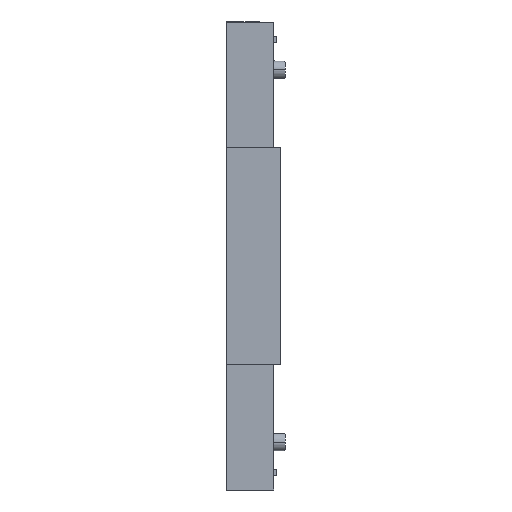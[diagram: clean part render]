
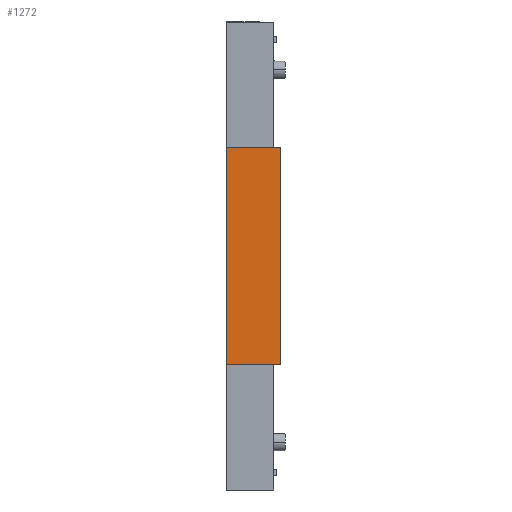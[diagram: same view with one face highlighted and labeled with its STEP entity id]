
A CAD part, front view. The second image highlights one B-rep face of the part: STEP entity #1272.
In plain terms, the highlighted planar face has unit normal (0, -1, 0).
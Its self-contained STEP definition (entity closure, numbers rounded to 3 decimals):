
#30 = FACE_OUTER_BOUND ( 'NONE', #1494, .T. ) ;
#44 = VECTOR ( 'NONE', #546, 1000. ) ;
#58 = LINE ( 'NONE', #514, #44 ) ;
#93 = EDGE_CURVE ( 'NONE', #783, #802, #743, .T. ) ;
#109 = EDGE_CURVE ( 'NONE', #802, #806, #763, .T. ) ;
#236 = EDGE_CURVE ( 'NONE', #783, #845, #601, .T. ) ;
#257 = AXIS2_PLACEMENT_3D ( 'NONE', #408, #407, #428 ) ;
#360 = EDGE_CURVE ( 'NONE', #845, #806, #58, .T. ) ;
#400 = PLANE ( 'NONE',  #257 ) ;
#407 = DIRECTION ( 'NONE',  ( 0., 1., 0. ) ) ;
#408 = CARTESIAN_POINT ( 'NONE',  ( 6.1, -18.298, 0. ) ) ;
#416 = CARTESIAN_POINT ( 'NONE',  ( 0., -18.298, -12.25 ) ) ;
#428 = DIRECTION ( 'NONE',  ( 0., 0., 1. ) ) ;
#514 = CARTESIAN_POINT ( 'NONE',  ( 6.1, -18.298, -12.25 ) ) ;
#516 = CARTESIAN_POINT ( 'NONE',  ( 0., -18.298, 12.25 ) ) ;
#523 = CARTESIAN_POINT ( 'NONE',  ( 6.1, -18.298, 12.25 ) ) ;
#546 = DIRECTION ( 'NONE',  ( -1., 0., 0. ) ) ;
#548 = CARTESIAN_POINT ( 'NONE',  ( 6.1, -18.298, -12.25 ) ) ;
#600 = VECTOR ( 'NONE', #1399, 1000. ) ;
#601 = LINE ( 'NONE', #1392, #600 ) ;
#707 = VECTOR ( 'NONE', #981, 1000. ) ;
#738 = ORIENTED_EDGE ( 'NONE', *, *, #93, .T. ) ;
#743 = LINE ( 'NONE', #963, #750 ) ;
#750 = VECTOR ( 'NONE', #950, 1000. ) ;
#763 = LINE ( 'NONE', #900, #707 ) ;
#769 = ORIENTED_EDGE ( 'NONE', *, *, #236, .F. ) ;
#783 = VERTEX_POINT ( 'NONE', #523 ) ;
#802 = VERTEX_POINT ( 'NONE', #516 ) ;
#806 = VERTEX_POINT ( 'NONE', #416 ) ;
#845 = VERTEX_POINT ( 'NONE', #548 ) ;
#900 = CARTESIAN_POINT ( 'NONE',  ( 0., -18.298, 0. ) ) ;
#950 = DIRECTION ( 'NONE',  ( -1., 0., 0. ) ) ;
#963 = CARTESIAN_POINT ( 'NONE',  ( 6.1, -18.298, 12.25 ) ) ;
#981 = DIRECTION ( 'NONE',  ( 0., 0., -1. ) ) ;
#1272 = ADVANCED_FACE ( 'NONE', ( #30 ), #400, .F. ) ;
#1392 = CARTESIAN_POINT ( 'NONE',  ( 6.1, -18.298, 0. ) ) ;
#1399 = DIRECTION ( 'NONE',  ( 0., 0., -1. ) ) ;
#1494 = EDGE_LOOP ( 'NONE', ( #1588, #1782, #769, #738 ) ) ;
#1588 = ORIENTED_EDGE ( 'NONE', *, *, #109, .T. ) ;
#1782 = ORIENTED_EDGE ( 'NONE', *, *, #360, .F. ) ;
